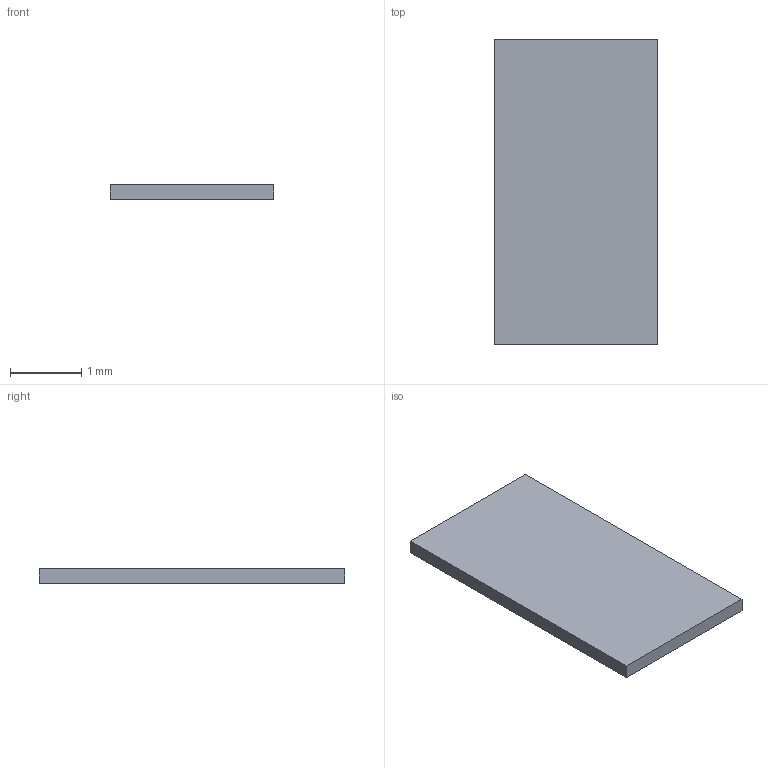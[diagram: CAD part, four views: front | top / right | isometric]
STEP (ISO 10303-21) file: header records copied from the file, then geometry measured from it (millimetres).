
FILE_DESCRIPTION(/* description */ ('STEP AP242 Edition 2','CAx-IF Rec.Pracs.---Representation and Presentation of Product Manufacturing Information (PMI)---4.0---2014-10-13','CAx-IF Rec.Pracs.---3D Tessellated Geometry---0.4---2014-09-14','2;1','CAx-IF Rec.Pracs.---User Defined Attributes---1.5---2016-08-15'),/* implementation_level */ '2;1');
FILE_NAME(/* name */ 'Drone Layout - Surface 373',/* time_stamp */ '2026-10-04T22:22:58Z',/* author */ (''),/* organization */ (''),/* preprocessor_version */ 'ST-DEVELOPER v20',/* originating_system */ 'ONSHAPE BY PTC INC, 1.221',/* authorisation */ ' ');
FILE_SCHEMA (('AP242_MANAGED_MODEL_BASED_3D_ENGINEERING_MIM_LF { 1 0 10303 442 3 1 4 }'));
Length unit declared in the file: metre
Products named in the file (1): kork:1__Body1
Bounding box: 2.3 x 4.3 x 0.2 mm (x, y, z)
Volume: 2 mm3; surface area: 22.4 mm2
Topology: 1 solids, 1 shells, 6 faces, 12 edges, 8 vertices
Faces by surface type: plane 6
Entity records: 169 total; most frequent: CARTESIAN_POINT 27, DIRECTION 26, ORIENTED_EDGE 24, EDGE_CURVE 12, LINE 12, VECTOR 12, VERTEX_POINT 8, AXIS2_PLACEMENT_3D 7
